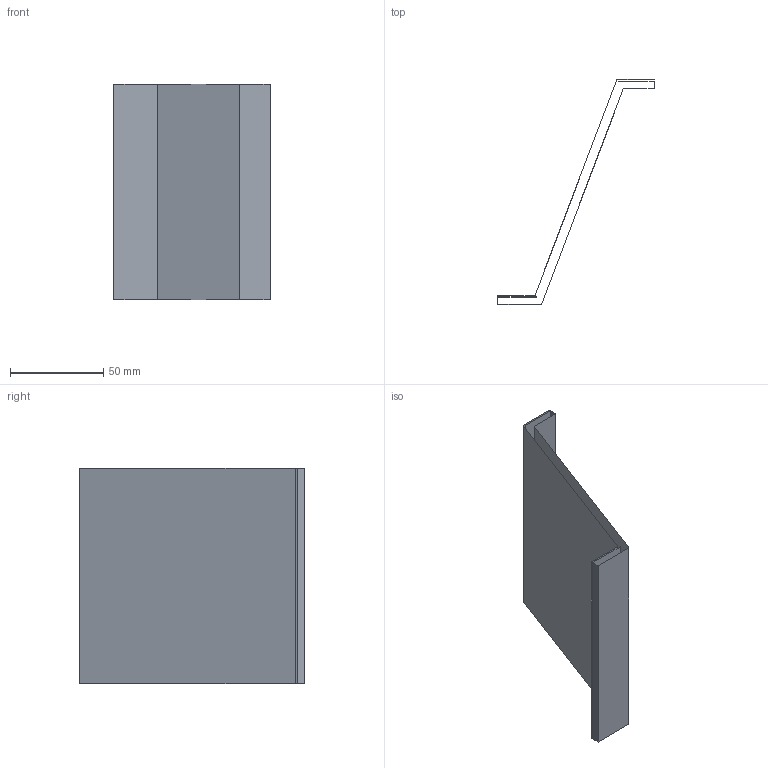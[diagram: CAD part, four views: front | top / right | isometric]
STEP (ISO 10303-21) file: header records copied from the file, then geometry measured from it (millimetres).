
FILE_DESCRIPTION(('CATIA V5 STEP Exchange'),'2;1');
FILE_NAME('C:\_Andres\UNIVERSIDAD\IQS\ASIGNATURAS\DAO\EXF\EXF-16172c\2inicio\Icart_Martori_Ej06_v16.stp','2017-03-05T21:01:25+00:00',('none'),('none'),'CATIA Version 5-6 Release 2014 SP1 HF18','CATIA V5 STEP AP203','none');
FILE_SCHEMA(('CONFIG_CONTROL_DESIGN'));
Length unit declared in the file: millimetre
Products named in the file (1): Icart_Martori_Ej06_v16
Bounding box: 84 x 121 x 116 mm (x, y, z)
Surface area: 43631 mm2 (no closed solid volume)
Topology: 0 solids, 2 shells, 10 faces, 42 edges, 36 vertices
Faces by surface type: plane 10
Entity records: 461 total; most frequent: CARTESIAN_POINT 100, DIRECTION 59, ORIENTED_EDGE 40, VECTOR 39, LINE 39, EDGE_CURVE 32, VERTEX_POINT 24, AXIS2_PLACEMENT_3D 11
